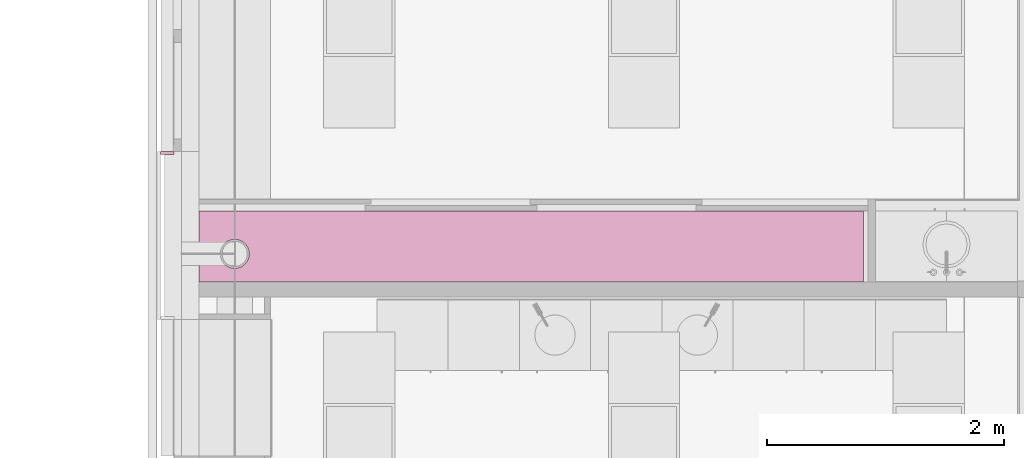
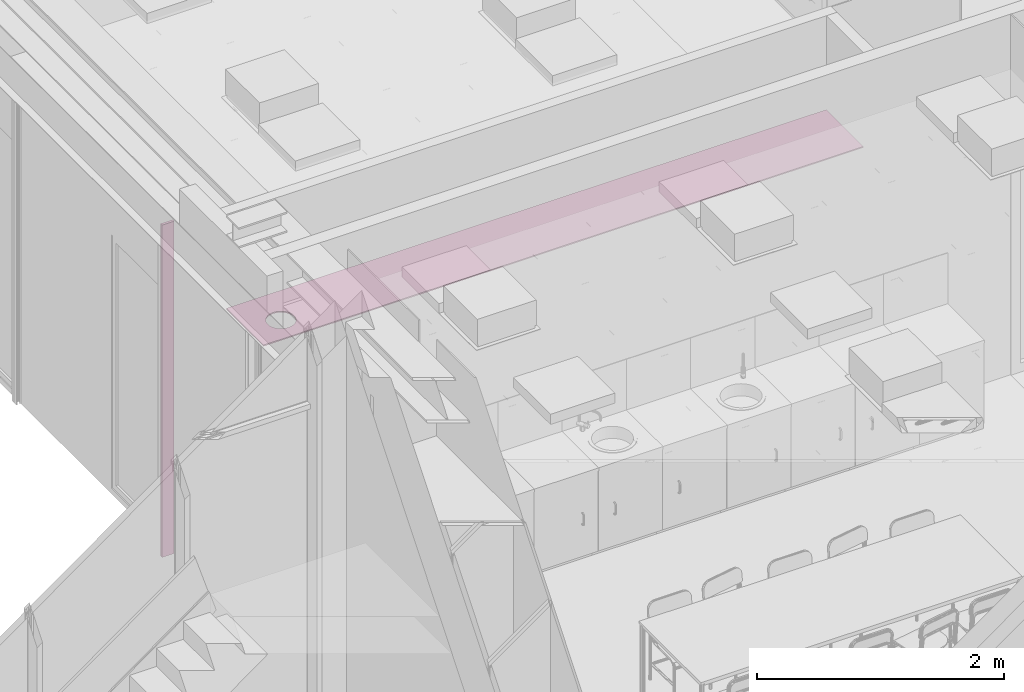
# One storey, part 320 of 347: 2 furnishings.
"""IFC2X3 building model written with IfcOpenShell, lengths in millimetres."""

from ifc_helpers import new_model, entity, si_unit, converted_unit, derived_unit, money_unit, direction, frame, origin_with_axes, place, context, subcontext, project, spatial, faceted_brep, material, type_object, element, save


model = new_model("IFC2X3")

# Units and contexts
model_context = context("Model", 3, precision=0.01, world=origin_with_axes(), true_north=direction((0.0, 1.0)))
plan_context = context("Plan", 3, precision=0.01, world=origin_with_axes(), true_north=direction((0.0, 1.0)))
body_context = subcontext(model_context, "Body", "Model", "MODEL_VIEW")
ifc_project = project(units=[si_unit("LENGTHUNIT", "METRE", prefix="MILLI"), si_unit("AREAUNIT", "SQUARE_METRE"), si_unit("VOLUMEUNIT", "CUBIC_METRE"), converted_unit("PLANEANGLEUNIT", "DEGREE", entity("IfcPlaneAngleMeasure", 0.0174532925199), si_unit("PLANEANGLEUNIT", "RADIAN"), dimensions=[0, 0, 0, 0, 0, 0, 0]), money_unit("EUR"), converted_unit("TIMEUNIT", "Year", entity("IfcTimeMeasure", 31556926.0), si_unit("TIMEUNIT", "SECOND"), dimensions=[0, 0, 1, 0, 0, 0, 0]), si_unit("MASSUNIT", "GRAM", prefix="KILO"), si_unit("THERMODYNAMICTEMPERATUREUNIT", "DEGREE_CELSIUS"), si_unit("LUMINOUSINTENSITYUNIT", "LUMEN"), si_unit("ENERGYUNIT", "JOULE", prefix="MEGA"), derived_unit("THERMALCONDUCTANCEUNIT", [(si_unit("POWERUNIT", "WATT"), 1), (si_unit("LENGTHUNIT", "METRE"), -1), (si_unit("THERMODYNAMICTEMPERATUREUNIT", "KELVIN"), -1)]), derived_unit("SPECIFICHEATCAPACITYUNIT", [(si_unit("ENERGYUNIT", "JOULE"), 1), (si_unit("MASSUNIT", "GRAM", prefix="KILO"), -1), (si_unit("THERMODYNAMICTEMPERATUREUNIT", "KELVIN"), -1)]), derived_unit("MASSDENSITYUNIT", [(si_unit("MASSUNIT", "GRAM", prefix="KILO"), 1), (si_unit("VOLUMEUNIT", "CUBIC_METRE"), -1)])], contexts=[model_context, plan_context])

# Site, building, storey
site_placement = place(None, origin_with_axes())
site = spatial("IfcSite", under=ifc_project, at=site_placement, Name="Site", CompositionType="ELEMENT")
building_placement = place(site_placement, origin_with_axes())
building = spatial("IfcBuilding", under=site, at=building_placement, Name="Naam gebouw", CompositionType="ELEMENT")
storey_placement = place(building_placement, origin_with_axes())
storey = spatial("IfcBuildingStorey", under=building, at=storey_placement, Name="begane grond", CompositionType="ELEMENT", Elevation=0.0)

# Furnishings
ifc_material_1 = material(Name="ALG - LICHTE SCHEIDINGSWAND")
furniture_type_1 = type_object("IfcFurnitureType", Name="44 koof plaf 50", AssemblyPlace="NOTDEFINED")
furnishing_1_placement = place(storey_placement, frame((24275.0000082, 20112.5, 2622.0), z_axis=(0.0, 0.0, 1.0), x_axis=(1.0, 0.0, 0.0)))
element("IfcFurnishingElement", 1, at=furnishing_1_placement, inside=storey, type_object=furniture_type_1, material=ifc_material_1, Name="72_79 vaste inrichting", ObjectType="SHELF", context=body_context, shape_type="Brep", body=[
    faceted_brep([(5599.9999918, 600.0, 0.0), (5599.9999918, 0.0, 0.0), (0.0, 0.0, 0.0), (0.0, 600.0, 0.0), (395.578890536, 161.278371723, 0.0), (410.143435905, 184.457712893, 0.0), (419.184929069, 210.296815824, 0.0), (422.249991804, 237.5, 0.0), (419.184929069, 264.703184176, 0.0), (410.143435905, 290.542287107, 0.0), (395.578890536, 313.721628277, 0.0), (376.221620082, 333.078898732, 0.0), (353.042278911, 347.643444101, 0.0), (327.20317598, 356.684937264, 0.0), (299.999991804, 359.75, 0.0), (272.796807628, 356.684937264, 0.0), (246.957704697, 347.643444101, 0.0), (223.778363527, 333.078898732, 0.0), (204.421093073, 313.721628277, 0.0), (189.856547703, 290.542287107, 0.0), (180.81505454, 264.703184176, 0.0), (177.749991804, 237.5, 0.0), (180.81505454, 210.296815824, 0.0), (189.856547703, 184.457712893, 0.0), (204.421093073, 161.278371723, 0.0), (223.778363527, 141.921101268, 0.0), (246.957704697, 127.356555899, 0.0), (272.796807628, 118.315062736, 0.0), (299.999991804, 115.25, 0.0), (327.20317598, 118.315062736, 0.0), (353.042278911, 127.356555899, 0.0), (376.221620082, 141.921101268, 0.0), (5599.9999918, 600.0, 12.0), (5599.9999918, 0.0, 12.0), (0.0, 0.0, 12.0), (0.0, 600.0, 12.0), (395.578890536, 161.278371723, 12.0), (410.143435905, 184.457712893, 12.0), (419.184929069, 210.296815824, 12.0), (422.249991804, 237.5, 12.0), (419.184929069, 264.703184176, 12.0), (410.143435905, 290.542287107, 12.0), (395.578890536, 313.721628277, 12.0), (376.221620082, 333.078898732, 12.0), (353.042278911, 347.643444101, 12.0), (327.20317598, 356.684937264, 12.0), (299.999991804, 359.75, 12.0), (272.796807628, 356.684937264, 12.0), (246.957704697, 347.643444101, 12.0), (223.778363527, 333.078898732, 12.0), (204.421093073, 313.721628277, 12.0), (189.856547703, 290.542287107, 12.0), (180.81505454, 264.703184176, 12.0), (177.749991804, 237.5, 12.0), (180.81505454, 210.296815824, 12.0), (189.856547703, 184.457712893, 12.0), (204.421093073, 161.278371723, 12.0), (223.778363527, 141.921101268, 12.0), (246.957704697, 127.356555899, 12.0), (272.796807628, 118.315062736, 12.0), (299.999991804, 115.25, 12.0), (327.20317598, 118.315062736, 12.0), (353.042278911, 127.356555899, 12.0), (376.221620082, 141.921101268, 12.0)], [[[0, 1, 2, 3], [4, 5, 6, 7, 8, 9, 10, 11, 12, 13, 14, 15, 16, 17, 18, 19, 20, 21, 22, 23, 24, 25, 26, 27, 28, 29, 30, 31]], [[32, 33, 1, 0]], [[33, 34, 2, 1]], [[34, 35, 3, 2]], [[35, 32, 0, 3]], [[4, 36, 37, 5]], [[5, 37, 38, 6]], [[6, 38, 39, 7]], [[7, 39, 40, 8]], [[8, 40, 41, 9]], [[9, 41, 42, 10]], [[10, 42, 43, 11]], [[11, 43, 44, 12]], [[12, 44, 45, 13]], [[13, 45, 46, 14]], [[14, 46, 47, 15]], [[15, 47, 48, 16]], [[16, 48, 49, 17]], [[17, 49, 50, 18]], [[18, 50, 51, 19]], [[19, 51, 52, 20]], [[20, 52, 53, 21]], [[21, 53, 54, 22]], [[22, 54, 55, 23]], [[23, 55, 56, 24]], [[24, 56, 57, 25]], [[25, 57, 58, 26]], [[26, 58, 59, 27]], [[27, 59, 60, 28]], [[28, 60, 61, 29]], [[29, 61, 62, 30]], [[30, 62, 63, 31]], [[31, 63, 36, 4]], [[32, 35, 34, 33], [42, 41, 40, 39, 38, 37, 36, 63, 62, 61, 60, 59, 58, 57, 56, 55, 54, 53, 52, 51, 50, 49, 48, 47, 46, 45, 44, 43]]]),
])
ifc_material_2 = material(Name="24 Hout gevelbekleding Lariks master")
furniture_type_2 = type_object("IfcFurnitureType", Name="24 Hout gevelbekleding Lariks master 3280", AssemblyPlace="NOTDEFINED")
furnishing_2_placement = place(storey_placement, frame((23949.999996, 21187.5, 0.0), z_axis=(0.0, 0.0, 1.0), x_axis=(1.0, 0.0, 0.0)))
element("IfcFurnishingElement", 2, at=furnishing_2_placement, inside=storey, type_object=furniture_type_2, material=ifc_material_2, Name="72_74 vaste inrichting", ObjectType="SHELF", context=body_context, shape_type="Brep", body=[
    faceted_brep([(0.0, 0.0, 3279.81793414), (0.0, 0.0, 0.0), (113.000123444, 0.0, 0.0), (113.000123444, 0.0, 3279.81793414), (1.66893094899e-05, 25.0, 3279.81793414), (1.66893094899e-05, 25.0, 0.0), (113.000123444, 25.0, 0.0), (113.000123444, 25.0, 3279.81793414)], [[[0, 1, 2, 3]], [[4, 5, 1, 0]], [[2, 1, 5, 6]], [[3, 2, 6, 7]], [[4, 0, 3, 7]], [[7, 6, 5, 4]]]),
])

save(model, "model.ifc")
